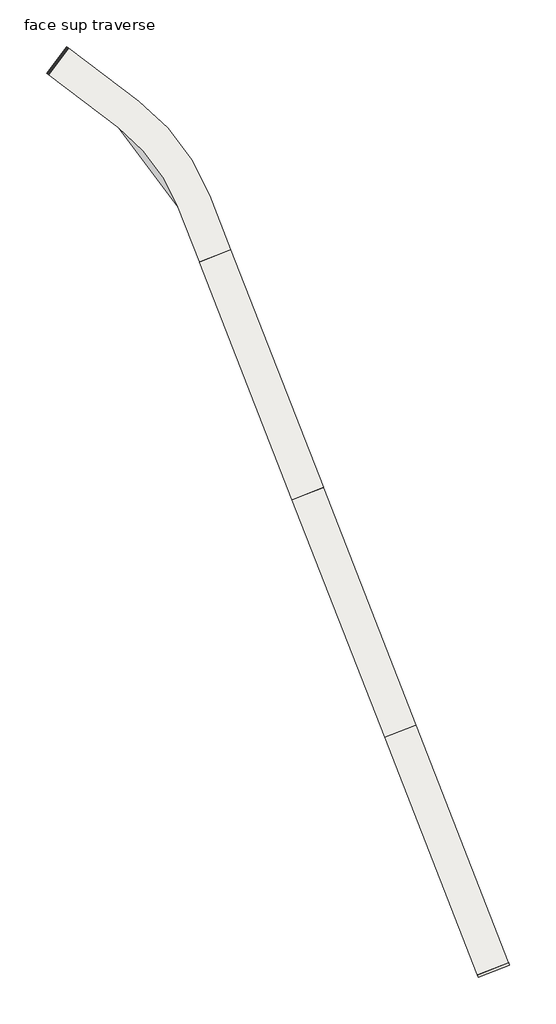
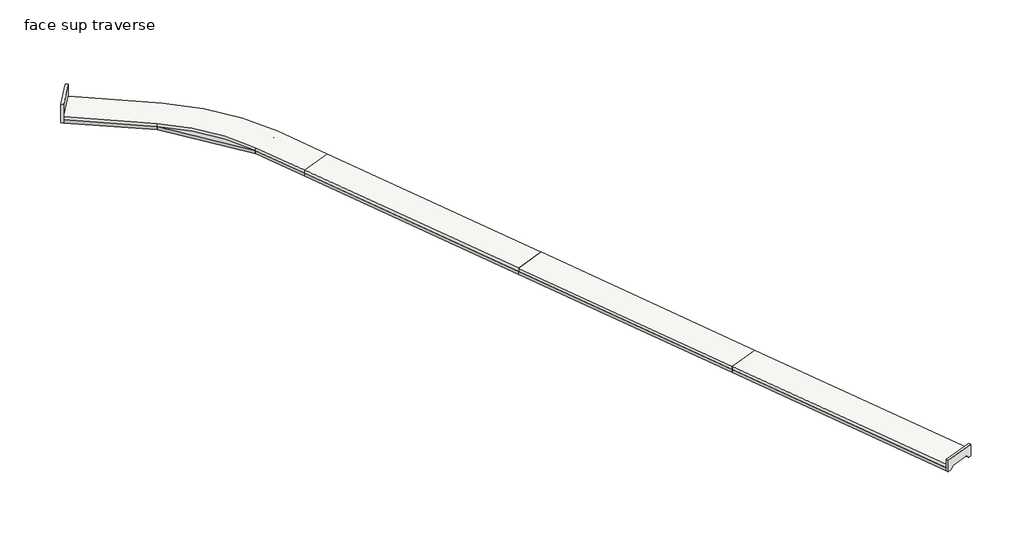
# One storey: 12 proxies, 4 slabs, 2 walls.
"""IFC4 building model written with IfcOpenShell, lengths in millimetres."""

import ifcopenshell
import ifcopenshell.guid

model = None  # the IFC model being written
_history = None  # IfcOwnerHistory: only IFC2X3 demands one
_inside = {}  # id of a spatial element -> (the spatial element, [elements in it])
_under = {}  # id of a project, library or spatial element -> (it, [spatial elements below it])
_declared = {}  # id of a project -> (the project, [libraries it declares])
_typed = {}  # id of a type object -> (the type object, [elements of that type])
_made_of = {}  # id of a material, layer set ... -> (it, [elements and type objects made of it])


def new_model(schema):
    """Start an empty IFC model of exactly this schema.

    Asked for "IFC4X3", IfcOpenShell would pick the latest addendum, in which some entities
    have other attributes; the version numbers below select the first issue.
    IFC2X3 requires an IfcOwnerHistory on every rooted entity: one is made here for all.
    """
    global model, _history
    if schema == "IFC4X3":
        model = ifcopenshell.file(schema_version=(4, 3, 0, 0))
    else:
        model = ifcopenshell.file(schema=schema)
    _inside.clear()
    _under.clear()
    _declared.clear()
    _typed.clear()
    _made_of.clear()
    _history = None
    if model.schema == "IFC2X3":
        org = make("IfcOrganization", Name="unknown")
        user = make(
            "IfcPersonAndOrganization",
            ThePerson=make("IfcPerson", FamilyName="unknown"),
            TheOrganization=org,
        )
        app = make(
            "IfcApplication",
            ApplicationDeveloper=org,
            Version="unknown",
            ApplicationFullName="unknown",
            ApplicationIdentifier="unknown",
        )
        _history = make(
            "IfcOwnerHistory",
            OwningUser=user,
            OwningApplication=app,
            ChangeAction="ADDED",
            CreationDate=0,
        )
    return model


def make(cls, **values):
    """One entity of the class cls with the attributes given. An attribute that is None is left unset."""
    return model.create_entity(
        cls, **{name: value for name, value in values.items() if value is not None}
    )


def rooted(cls, **values):
    """An entity with a GlobalId (a new one), such as an element, a storey or a relation."""
    return make(cls, GlobalId=ifcopenshell.guid.new(), OwnerHistory=_history, **values)


def si_unit(unit_type, name, prefix=None):
    """IfcSIUnit, for example si_unit("LENGTHUNIT", "METRE", prefix="MILLI")."""
    return make("IfcSIUnit", UnitType=unit_type, Prefix=prefix, Name=name)


def assignment(units):
    """IfcUnitAssignment: the units of a project."""
    return None if units is None else make("IfcUnitAssignment", Units=units)


def point(xyz):
    """IfcCartesianPoint."""
    return None if xyz is None else make("IfcCartesianPoint", Coordinates=xyz)


def direction(xyz):
    """IfcDirection."""
    return None if xyz is None else make("IfcDirection", DirectionRatios=xyz)


def frame(location, z_axis=None, x_axis=None):
    """IfcAxis2Placement3D, a coordinate frame: its origin and axes. An axis left out is left unset."""
    return make(
        "IfcAxis2Placement3D",
        Location=point(location),
        Axis=direction(z_axis),
        RefDirection=direction(x_axis),
    )


def frame_2d(location, x_axis=None):
    """IfcAxis2Placement2D, a coordinate frame in the plane: its origin and x axis."""
    return make(
        "IfcAxis2Placement2D", Location=point(location), RefDirection=direction(x_axis)
    )


def origin():
    """The frame at (0, 0, 0) with its axes left unset."""
    return frame((0.0, 0.0, 0.0))


def place(relative_to, where):
    """IfcLocalPlacement: puts the frame where relative to a parent placement (None: the world)."""
    return make(
        "IfcLocalPlacement", PlacementRelTo=relative_to, RelativePlacement=where
    )


def context(
    kind, dimensions, precision=None, world=None, true_north=None, identifier=None
):
    """IfcGeometricRepresentationContext, for example the 3D "Model" context."""
    return make(
        "IfcGeometricRepresentationContext",
        ContextIdentifier=identifier,
        ContextType=kind,
        CoordinateSpaceDimension=dimensions,
        Precision=precision,
        WorldCoordinateSystem=world,
        TrueNorth=true_north,
    )


def project(units=None, contexts=None):
    """IfcProject with its units and contexts."""
    return rooted(
        "IfcProject",
        Name="project",
        RepresentationContexts=contexts,
        UnitsInContext=assignment(units),
    )


def spatial(cls, under=None, at=None, **own):
    """A site, building, storey or space (cls), placed at a placement, below another one or the project."""
    s = rooted(cls, ObjectPlacement=at, **own)
    if under is not None:
        _under.setdefault(under.id(), (under, []))[1].append(s)
    return s


def polyline(points):
    """IfcPolyline through the points."""
    return make("IfcPolyline", Points=[point(p) for p in points])


def circle_curve(where, radius):
    """IfcCircle in the frame where."""
    return make("IfcCircle", Position=where, Radius=radius)


def trimmed(basis, trim1, trim2, sense, master):
    """IfcTrimmedCurve: the piece of a basis curve between two trims."""
    return make(
        "IfcTrimmedCurve",
        BasisCurve=basis,
        Trim1=trim1,
        Trim2=trim2,
        SenseAgreement=sense,
        MasterRepresentation=master,
    )


def segment(curve, same_sense, transition):
    """IfcCompositeCurveSegment."""
    return make(
        "IfcCompositeCurveSegment",
        Transition=transition,
        SameSense=same_sense,
        ParentCurve=curve,
    )


def composite_curve(segments, self_intersect=None):
    """IfcCompositeCurve: segments joined end to end."""
    return make("IfcCompositeCurve", Segments=segments, SelfIntersect=self_intersect)


def outline(outer, holes=None, kind="AREA"):
    """IfcArbitraryClosedProfileDef: a profile drawn as a closed curve; with holes, ...WithVoids."""
    if holes is None:
        return make("IfcArbitraryClosedProfileDef", ProfileType=kind, OuterCurve=outer)
    return make(
        "IfcArbitraryProfileDefWithVoids",
        ProfileType=kind,
        OuterCurve=outer,
        InnerCurves=holes,
    )


def extrude(swept, where, along, depth):
    """IfcExtrudedAreaSolid: the profile swept, set in the frame where, extruded along a direction by depth."""
    return make(
        "IfcExtrudedAreaSolid",
        SweptArea=swept,
        Position=where,
        ExtrudedDirection=direction(along),
        Depth=depth,
    )


def shape(context_of_items, identifier, shape_type, items):
    """IfcShapeRepresentation: the items that make up one representation, for example the "Body"."""
    return make(
        "IfcShapeRepresentation",
        ContextOfItems=context_of_items,
        RepresentationIdentifier=identifier,
        RepresentationType=shape_type,
        Items=items,
    )


def source(mapping_origin, context_of_items, identifier, shape_type, items):
    """IfcRepresentationMap: a shape defined once, which mapped items show again and again."""
    return make(
        "IfcRepresentationMap",
        MappingOrigin=mapping_origin,
        MappedRepresentation=shape(context_of_items, identifier, shape_type, items),
    )


def transform(
    local_origin,
    x_axis=None,
    y_axis=None,
    z_axis=None,
    scale=None,
    scale2=None,
    scale3=None,
    uniform=True,
):
    """IfcCartesianTransformationOperator3D, or its non-uniform kind. x_axis, y_axis, z_axis: its Axis1, 2, 3."""
    if uniform:
        return make(
            "IfcCartesianTransformationOperator3D",
            Axis1=direction(x_axis),
            Axis2=direction(y_axis),
            LocalOrigin=point(local_origin),
            Scale=scale,
            Axis3=direction(z_axis),
        )
    return make(
        "IfcCartesianTransformationOperator3DnonUniform",
        Axis1=direction(x_axis),
        Axis2=direction(y_axis),
        LocalOrigin=point(local_origin),
        Scale=scale,
        Axis3=direction(z_axis),
        Scale2=scale2,
        Scale3=scale3,
    )


def mapped(mapping_source, mapping_target):
    """IfcMappedItem: shows the shape of a source again, moved by a transform."""
    return make(
        "IfcMappedItem", MappingSource=mapping_source, MappingTarget=mapping_target
    )


def made_of(thing, what):
    """Note that an element or type object is made of a material, layer set ...; save() writes the relation."""
    if what is not None:
        _made_of.setdefault(what.id(), (what, []))[1].append(thing)
    return thing


def element(
    cls,
    number,
    at=None,
    inside=None,
    cuts=None,
    type_object=None,
    material=None,
    context=None,
    identifier="Body",
    shape_type=None,
    held_by="IfcProductDefinitionShape",
    body=None,
    shapes=None,
    **own,
):
    """One element of the class cls, such as IfcWall. Its Tag is "e" and its number.

    at: its placement. inside: the storey or other place that contains it. cuts: it is an
    opening in that element (IfcRelVoidsElement). A single representation is given by context,
    identifier, shape_type and body (its items); several are given by shapes. held_by: the class
    of the entity that holds the representations. save() writes the other relations.
    """
    e = rooted(cls, Tag="e%d" % number, ObjectPlacement=at, **own)
    if body is not None:
        shapes = [shape(context, identifier, shape_type, body)]
    if shapes is not None:
        e.Representation = make(held_by, Representations=shapes)
    if inside is not None:
        _inside.setdefault(inside.id(), (inside, []))[1].append(e)
    if cuts is not None:
        rooted(
            "IfcRelVoidsElement", RelatingBuildingElement=cuts, RelatedOpeningElement=e
        )
    if type_object is not None:
        _typed.setdefault(type_object.id(), (type_object, []))[1].append(e)
    return made_of(e, material)


def aggregate(whole, parts):
    """IfcRelAggregates: a whole, such as a stair, and the parts it consists of."""
    return rooted("IfcRelAggregates", RelatingObject=whole, RelatedObjects=parts)


def save(model, path):
    """Write the relations noted so far, then the file.

    IfcRelAggregates (storeys below a building ...), IfcRelContainedInSpatialStructure (elements
    in a storey), IfcRelDefinesByType, IfcRelAssociatesMaterial and IfcRelDeclares: one each for
    every whole, place, type object, material and project.
    """
    for whole, parts in _under.values():
        aggregate(whole, parts)
    for where, things in _inside.values():
        rooted(
            "IfcRelContainedInSpatialStructure",
            RelatedElements=things,
            RelatingStructure=where,
        )
    for kind, things in _typed.values():
        rooted("IfcRelDefinesByType", RelatedObjects=things, RelatingType=kind)
    for what, things in _made_of.values():
        rooted("IfcRelAssociatesMaterial", RelatedObjects=things, RelatingMaterial=what)
    for by, libraries in _declared.values():
        rooted("IfcRelDeclares", RelatingContext=by, RelatedDefinitions=libraries)
    model.write(path)


def plane_surface(at):
    """IfcPlane: the flat surface through the origin of the frame at, square to its z axis."""
    return make("IfcPlane", Position=at)


def cylinder_surface(at, radius):
    """IfcCylindricalSurface: all points at the distance radius from the z axis of the frame at."""
    return make("IfcCylindricalSurface", Position=at, Radius=radius)


def revolved_surface(curve, axis_point, axis_direction):
    """IfcSurfaceOfRevolution: the curve turned about the line through axis_point along axis_direction."""
    return make(
        "IfcSurfaceOfRevolution",
        SweptCurve=make("IfcArbitraryOpenProfileDef", ProfileType="CURVE", Curve=curve),
        AxisPosition=make("IfcAxis1Placement", Location=point(axis_point), Axis=direction(axis_direction)),
    )


def advanced_brep(points, edges, surfaces, faces):
    """IfcAdvancedBrep: a solid bounded by faces that lie on surfaces and meet in shared edges.

    An edge is (start, end): straight between two places in points (the first is 0);
    or (start, end, curve); or (start, end, curve, False) where it runs against its curve.
    A face is (place in surfaces, loops), or (place, loops, False) where it looks against
    its surface's normal. A loop lists edges by number (the first is 1), with a minus sign
    where the edge is run from its end to its start. The first loop is the outer one.
    """
    corners = [point(p) for p in points]
    vertices = [make("IfcVertexPoint", VertexGeometry=c) for c in corners]
    made = []
    for start, end, *more in edges:
        made.append(
            make(
                "IfcEdgeCurve",
                EdgeStart=vertices[start],
                EdgeEnd=vertices[end],
                EdgeGeometry=more[0] if more else make("IfcPolyline", Points=[corners[start], corners[end]]),
                SameSense=more[1] if len(more) > 1 else True,
            )
        )
    hull = []
    for where, loops, *sense in faces:
        bounds = []
        for j, loop in enumerate(loops):
            ring = [make("IfcOrientedEdge", EdgeElement=made[abs(k) - 1], Orientation=k > 0) for k in loop]
            bounds.append(
                make(
                    "IfcFaceOuterBound" if j == 0 else "IfcFaceBound",
                    Bound=make("IfcEdgeLoop", EdgeList=ring),
                    Orientation=True,
                )
            )
        hull.append(make("IfcAdvancedFace", Bounds=bounds, FaceSurface=surfaces[where], SameSense=sense[0] if sense else True))
    return make("IfcAdvancedBrep", Outer=make("IfcClosedShell", CfsFaces=hull))


def generic_models_11dc793a(model_context):
    return source(origin(), model_context, "Body", "AdvancedBrep", [
        advanced_brep(
        [(18325.0, 0.0, -350.0), (18325.0, 0.0, -700.0), (18675.0, 0.0, -700.0), (19025.0, 0.0, -350.0), (15634.3154742, 9558.9646225, -350.0), (15634.3154742, 9558.9646225, -700.0), (15932.924501, 9741.5369345, -700.0), (16231.5335278, 9924.1092466, -350.0)],
        [
            (0, 1),
            (1, 2),
            (2, 3),
            (3, 0),
            (0, 4, circle_curve(frame((0.0, 0.0, -350.0), z_axis=(0.0, 0.0, 1.0), x_axis=(1.0, 0.0, 0.0)), 18325.0)),
            (4, 5),
            (5, 1, circle_curve(frame((0.0, 0.0, -700.0), z_axis=(0.0, 0.0, -1.0), x_axis=(1.0, 0.0, 0.0)), 18325.0)),
            (5, 6),
            (6, 2, circle_curve(frame((0.0, 0.0, -700.0), z_axis=(0.0, 0.0, -1.0), x_axis=(1.0, 0.0, 0.0)), 18675.0)),
            (6, 7),
            (7, 3, circle_curve(frame((0.0, 0.0, -350.0), z_axis=(0.0, 0.0, -1.0), x_axis=(1.0, 0.0, 0.0)), 19025.0)),
            (7, 4),
        ],
        [
            plane_surface(frame((0.0, 0.0, 1500.0), z_axis=(0.0, -1.0, 0.0), x_axis=(1.0, 0.0, 0.0))),
            revolved_surface(polyline([(18325.0, 0.0, -350.0), (18325.0, 0.0, -700.0)]), (0.0, 0.0, 1500.0), (0.0, 0.0, 1.0)),
            plane_surface(frame((0.0, 0.0, -700.0), z_axis=(0.0, 0.0, -1.0), x_axis=(1.0, 0.0, 0.0))),
            revolved_surface(polyline([(18675.0, 0.0, -700.0), (19025.0, 0.0, -350.0)]), (0.0, 0.0, 1500.0), (0.0, 0.0, 1.0)),
            plane_surface(frame((0.0, 0.0, -350.0), z_axis=(0.0, 0.0, 1.0), x_axis=(1.0, 0.0, 0.0))),
            plane_surface(frame((0.0, 0.0, -350.0), z_axis=(-0.5216351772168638, 0.853168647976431, 0.0), x_axis=(0.0, 0.0, -1.0))),
        ],
        [
            (0, [[1, 2, 3, 4]]),
            (1, [[-1, 5, 6, 7]]),
            (2, [[-2, -7, 8, 9]]),
            (3, [[-3, -9, 10, 11]]),
            (4, [[-4, -11, 12, -5]]),
            (5, [[-6, -12, -10, -8]]),
        ],
    ),
    ])


def generic_models_7486e4d8(model_context):
    return source(origin(), model_context, "Body", "AdvancedBrep", [
        advanced_brep(
        [(21665.0, 0.0, -350.0), (20965.0, 0.0, -350.0), (21315.0, 0.0, -700.0), (21665.0, 0.0, -700.0), (18483.8987584, 11301.2261144, -700.0), (18483.8987584, 11301.2261144, -350.0), (18185.2897316, 11118.6538024, -700.0), (17886.6807048, 10936.0814904, -350.0)],
        [
            (0, 1),
            (1, 2),
            (2, 3),
            (3, 0),
            (3, 4, circle_curve(frame((0.0, 0.0, -700.0), z_axis=(0.0, 0.0, 1.0), x_axis=(1.0, 0.0, 0.0)), 21665.0)),
            (4, 5),
            (5, 0, circle_curve(frame((0.0, 0.0, -350.0), z_axis=(0.0, 0.0, -1.0), x_axis=(1.0, 0.0, 0.0)), 21665.0)),
            (2, 6, circle_curve(frame((0.0, 0.0, -700.0), z_axis=(0.0, 0.0, 1.0), x_axis=(1.0, 0.0, 0.0)), 21315.0)),
            (6, 4),
            (1, 7, circle_curve(frame((0.0, 0.0, -350.0), z_axis=(0.0, 0.0, 1.0), x_axis=(1.0, 0.0, 0.0)), 20965.0)),
            (7, 6),
            (5, 7),
        ],
        [
            plane_surface(frame((0.0, 0.0, 1500.0), z_axis=(0.0, -1.0, 0.0), x_axis=(1.0, 0.0, 0.0))),
            cylinder_surface(frame((0.0, 0.0, 1500.0), z_axis=(0.0, 0.0, 1.0), x_axis=(1.0, 0.0, 0.0)), 21665.0),
            plane_surface(frame((0.0, 0.0, -700.0), z_axis=(0.0, 0.0, -1.0), x_axis=(1.0, 0.0, 0.0))),
            revolved_surface(polyline([(20965.0, 0.0, -350.0), (21315.0, 0.0, -700.0)]), (0.0, 0.0, 1500.0), (0.0, 0.0, 1.0)),
            plane_surface(frame((0.0, 0.0, -350.0), z_axis=(0.0, 0.0, 1.0), x_axis=(1.0, 0.0, 0.0))),
            plane_surface(frame((0.0, 0.0, -350.0), z_axis=(-0.5216351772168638, 0.853168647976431, 0.0), x_axis=(0.0, 0.0, -1.0))),
        ],
        [
            (0, [[1, 2, 3, 4]]),
            (1, [[-4, 5, 6, 7]]),
            (2, [[-3, 8, 9, -5]]),
            (3, [[-2, 10, 11, -8]]),
            (4, [[-1, -7, 12, -10]]),
            (5, [[-6, -9, -11, -12]]),
        ],
    ),
    ])


def generic_models_39ab5bcd(model_context):
    return source(origin(), model_context, "Body", "SweptSolid", [
        extrude(outline(polyline([(0.0, -350.0), (0.0, -700.0), (-350.0, -700.0), (-700.0, -350.0), (0.0, -350.0)])), frame((0.0, 0.0, 0.0), z_axis=(1.0, 0.0, 0.0), x_axis=(0.0, 1.0, 0.0)), (0.0, 0.0, 1.0), 25500.0),
    ])


def generic_models_48085c64(model_context):
    return source(origin(), model_context, "Body", "SweptSolid", [
        extrude(outline(polyline([(0.0, -350.0), (700.0, -350.0), (350.0, -700.0), (0.0, -700.0), (0.0, -350.0)])), frame((0.0, 0.0, 0.0), z_axis=(1.0, 0.0, 0.0), x_axis=(0.0, 1.0, 0.0)), (0.0, 0.0, 1.0), 25500.0),
    ])


def generic_models_697e8544(model_context):
    return source(origin(), model_context, "Body", "SweptSolid", [
        extrude(outline(polyline([(0.0, -350.0), (0.0, -700.0), (-350.0, -700.0), (-700.0, -350.0), (0.0, -350.0)])), frame((0.0, 0.0, 0.0), z_axis=(1.0, 0.0, 0.0), x_axis=(0.0, 1.0, 0.0)), (0.0, 0.0, 1.0), 5872.9592015),
    ])


def generic_models_bdcf9df0(model_context):
    return source(origin(), model_context, "Body", "SweptSolid", [
        extrude(outline(polyline([(0.0, -350.0), (700.0, -350.0), (350.0, -700.0), (0.0, -700.0), (0.0, -350.0)])), frame((0.0, 0.0, 0.0), z_axis=(1.0, 0.0, 0.0), x_axis=(0.0, 1.0, 0.0)), (0.0, 0.0, 1.0), 5873.5479057),
    ])


def generic_models_537f49c0(model_context):
    return source(origin(), model_context, "Body", "SweptSolid", [
        extrude(outline(polyline([(0.0, -350.0), (0.0, -700.0), (-350.0, -700.0), (-700.0, -350.0), (0.0, -350.0)])), frame((0.0, 0.0, 0.0), z_axis=(1.0, 0.0, 0.0), x_axis=(0.0, 1.0, 0.0)), (0.0, 0.0, 1.0), 8785.0),
    ])


def generic_models_c98ec642(model_context):
    return source(origin(), model_context, "Body", "SweptSolid", [
        extrude(outline(polyline([(0.0, -350.0), (700.0, -350.0), (350.0, -700.0), (0.0, -700.0), (0.0, -350.0)])), frame((0.0, 0.0, 0.0), z_axis=(1.0, 0.0, 0.0), x_axis=(0.0, 1.0, 0.0)), (0.0, 0.0, 1.0), 8785.0),
    ])


model = new_model("IFC4")

# Units and contexts
model_context = context("Model", 3, world=origin())
ifc_project = project(units=[si_unit("LENGTHUNIT", "METRE", prefix="MILLI")], contexts=[model_context])

# Site, building, storey
site = spatial("IfcSite", under=ifc_project)
building = spatial("IfcBuilding", under=site)
storey = spatial("IfcBuildingStorey", under=building, Name="face sup traverse", Elevation=3350.0)

# Proxies
placement = place(None, origin())
generic_models_shape = generic_models_11dc793a(model_context)
element("IfcBuildingElementProxy", 1, Name="Gousset traverse courbe ext ou int : Gousset traverse courbe - côté intérieur", ObjectType="Gousset traverse courbe ext ou int : Gousset traverse courbe - côté intérieur", at=placement, inside=storey, context=model_context, shape_type="MappedRepresentation", body=[
    mapped(generic_models_shape, transform((199.3165241, -25275.899501, 3350.0), x_axis=(0.9317223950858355, 0.36317127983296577, 0.0), y_axis=(-0.36317127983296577, 0.9317223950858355, 0.0), z_axis=(0.0, 0.0, 1.0))),
])
generic_models_2_shape = generic_models_7486e4d8(model_context)
element("IfcBuildingElementProxy", 2, Name="Gousset traverse courbe ext ou int : Gousset traverse courbe - coté extérieur", ObjectType="Gousset traverse courbe ext ou int : Gousset traverse courbe - coté extérieur", at=placement, inside=storey, context=model_context, shape_type="MappedRepresentation", body=[
    mapped(generic_models_2_shape, transform((199.316329, -25275.8995192, 3350.0), x_axis=(0.9317075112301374, 0.3632094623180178, 0.0), y_axis=(-0.3632094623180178, 0.9317075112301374, 0.0), z_axis=(0.0, 0.0, 1.0))),
])
generic_models_3_shape = generic_models_39ab5bcd(model_context)
element("IfcBuildingElementProxy", 3, Name="Gousset traverse bord droit : Gousset traverse bord droit", ObjectType="Gousset traverse bord droit : Gousset traverse bord droit", at=placement, inside=storey, context=model_context, shape_type="MappedRepresentation", body=[
    mapped(generic_models_3_shape, transform((22537.7386278, -22896.7774592, 3350.0), x_axis=(0.363288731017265, -0.9316766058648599, 0.0), y_axis=(0.9316766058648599, 0.363288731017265, 0.0), z_axis=(0.0, 0.0, 1.0))),
])
element("IfcBuildingElementProxy", 4, Name="Gousset traverse bord droit : Gousset traverse bord droit", ObjectType="Gousset traverse bord droit : Gousset traverse bord droit", at=placement, inside=storey, context=model_context, shape_type="MappedRepresentation", body=[
    mapped(generic_models_3_shape, transform((31809.7166896, -46672.8331252, 3350.0), x_axis=(0.363288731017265, -0.9316766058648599, 0.0), y_axis=(0.9316766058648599, 0.363288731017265, 0.0), z_axis=(0.0, 0.0, 1.0))),
])
element("IfcBuildingElementProxy", 5, Name="Gousset traverse bord droit : Gousset traverse bord droit", ObjectType="Gousset traverse bord droit : Gousset traverse bord droit", at=placement, inside=storey, context=model_context, shape_type="MappedRepresentation", body=[
    mapped(generic_models_3_shape, transform((41081.6947513, -70448.8887913, 3350.0), x_axis=(0.363288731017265, -0.9316766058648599, 0.0), y_axis=(0.9316766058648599, 0.363288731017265, 0.0), z_axis=(0.0, 0.0, 1.0))),
])
generic_models_4_shape = generic_models_48085c64(model_context)
element("IfcBuildingElementProxy", 6, Name="Gousset traverse bord droit : Gousset traverse bord droit", ObjectType="Gousset traverse bord droit : Gousset traverse bord droit", at=placement, inside=storey, context=model_context, shape_type="MappedRepresentation", body=[
    mapped(generic_models_4_shape, transform((19414.9670882, -24114.5685686, 3350.0), x_axis=(0.3633553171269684, -0.9316506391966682, 0.0), y_axis=(0.9316506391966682, 0.3633553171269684, 0.0), z_axis=(0.0, 0.0, 1.0))),
])
element("IfcBuildingElementProxy", 7, Name="Gousset traverse bord droit : Gousset traverse bord droit", ObjectType="Gousset traverse bord droit : Gousset traverse bord droit", at=placement, inside=storey, context=model_context, shape_type="MappedRepresentation", body=[
    mapped(generic_models_4_shape, transform((28686.9451499, -47890.6242347, 3350.0), x_axis=(0.3633553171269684, -0.9316506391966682, 0.0), y_axis=(0.9316506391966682, 0.3633553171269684, 0.0), z_axis=(0.0, 0.0, 1.0))),
])
element("IfcBuildingElementProxy", 8, Name="Gousset traverse bord droit : Gousset traverse bord droit", ObjectType="Gousset traverse bord droit : Gousset traverse bord droit", at=placement, inside=storey, context=model_context, shape_type="MappedRepresentation", body=[
    mapped(generic_models_4_shape, transform((37958.9232117, -71666.6799007, 3350.0), x_axis=(0.3633553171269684, -0.9316506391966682, 0.0), y_axis=(0.9316506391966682, 0.3633553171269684, 0.0), z_axis=(0.0, 0.0, 1.0))),
])
generic_models_5_shape = generic_models_697e8544(model_context)
element("IfcBuildingElementProxy", 9, Name="Gousset traverse bord droit : Gousset traverse bord droit", ObjectType="Gousset traverse bord droit : Gousset traverse bord droit", at=placement, inside=storey, context=model_context, shape_type="MappedRepresentation", body=[
    mapped(generic_models_5_shape, transform((20397.6941603, -17406.4788956, 3350.0), x_axis=(0.3618006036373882, -0.9322555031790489, 0.0), y_axis=(0.9322555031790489, 0.3618006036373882, 0.0), z_axis=(0.0, 0.0, 1.0))),
])
generic_models_6_shape = generic_models_bdcf9df0(model_context)
element("IfcBuildingElementProxy", 10, Name="Gousset traverse bord droit : Gousset traverse bord droit", ObjectType="Gousset traverse bord droit : Gousset traverse bord droit", at=placement, inside=storey, context=model_context, shape_type="MappedRepresentation", body=[
    mapped(generic_models_6_shape, transform((17281.6908696, -18620.3956026, 3350.0), x_axis=(0.363322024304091, -0.9316636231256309, 0.0), y_axis=(0.9316636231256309, 0.363322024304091, 0.0), z_axis=(0.0, 0.0, 1.0))),
])
generic_models_7_shape = generic_models_537f49c0(model_context)
element("IfcBuildingElementProxy", 11, Name="Gousset traverse bord droit : Gousset traverse bord droit", ObjectType="Gousset traverse bord droit : Gousset traverse bord droit", at=placement, inside=storey, context=model_context, shape_type="MappedRepresentation", body=[
    mapped(generic_models_7_shape, transform((6328.9008819, -2708.8061228, 3350.0), x_axis=(0.7959685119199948, -0.6053380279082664, 0.0), y_axis=(0.6053380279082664, 0.7959685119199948, 0.0), z_axis=(0.0, 0.0, 1.0))),
])
generic_models_8_shape = generic_models_c98ec642(model_context)
element("IfcBuildingElementProxy", 12, Name="Gousset traverse bord droit : Gousset traverse bord droit", ObjectType="Gousset traverse bord droit : Gousset traverse bord droit", at=placement, inside=storey, context=model_context, shape_type="MappedRepresentation", body=[
    mapped(generic_models_8_shape, transform((4301.0184884, -5375.3006377, 3350.0), x_axis=(0.7959685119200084, -0.6053380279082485, 0.0), y_axis=(0.6053380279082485, 0.7959685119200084, 0.0), z_axis=(0.0, 0.0, 1.0))),
])

# Slabs
element("IfcSlab", 13, ObjectType="Dalle en béton - 350 mm", at=placement, inside=storey, context=model_context, shape_type="SweptSolid", body=[
    extrude(outline(polyline([(22537.7386278, -22896.7774592), (31802.4502481, -46654.1998502), (28679.6787084, -47871.9909596), (19414.9670882, -24114.5685686), (22537.7386278, -22896.7774592)])), frame((0.0, 0.0, 3000.0), z_axis=(0.0, 0.0, 1.0), x_axis=(1.0, 0.0, 0.0)), (0.0, 0.0, 1.0), 350.0),
])
element("IfcSlab", 14, ObjectType="Dalle en béton - 350 mm", at=placement, inside=storey, context=model_context, shape_type="SweptSolid", body=[
    extrude(outline(polyline([(31809.7166896, -46672.8331252), (41074.4283098, -70430.2555162), (37951.6567702, -71648.0466256), (28686.9451499, -47890.6242347), (31809.7166896, -46672.8331252)])), frame((0.0, 0.0, 3000.0), z_axis=(0.0, 0.0, 1.0), x_axis=(1.0, 0.0, 0.0)), (0.0, 0.0, 1.0), 350.0),
])
element("IfcSlab", 15, ObjectType="Dalle en béton - 350 mm", at=placement, inside=storey, context=model_context, shape_type="SweptSolid", body=[
    extrude(outline(composite_curve([segment(trimmed(circle_curve(frame_2d((191.4283658, -25288.637242)), 21687.3492446), [point((13321.0417842, -8027.2824649))], [point((20394.3224534, -17402.9421082))], False, "CARTESIAN"), True, "CONTINUOUS"), segment(polyline([(20394.3224534, -17402.9421082), (22530.3852007, -22877.9211277), (19407.6136611, -24095.7122372), (17272.3131366, -18620.1789911)]), True, "CONTINUOUS"), segment(trimmed(circle_curve(frame_2d((203.5197493, -25275.7189471)), 18320.4781544), [point((17272.3131366, -18620.1789911))], [point((11293.6018656, -10693.1952129))], True, "CARTESIAN"), True, "CONTINUOUS"), segment(polyline([(11293.6018656, -10693.1952129), (4301.0184884, -5375.3006377), (6328.9008819, -2708.8061228), (13321.0417842, -8027.2824649)]), True, "CONTINUOUS")], self_intersect=False)), frame((0.0, 0.0, 3000.0), z_axis=(0.0, 0.0, 1.0), x_axis=(1.0, 0.0, 0.0)), (0.0, 0.0, 1.0), 350.0),
])
element("IfcSlab", 16, ObjectType="Dalle en béton - 350 mm", at=placement, inside=storey, context=model_context, shape_type="SweptSolid", body=[
    extrude(outline(polyline([(41081.6947513, -70448.8887913), (50346.4063716, -94206.3111822), (47223.6348319, -95424.1022917), (37958.9232117, -71666.6799007), (41081.6947513, -70448.8887913)])), frame((0.0, 0.0, 3000.0), z_axis=(0.0, 0.0, 1.0), x_axis=(1.0, 0.0, 0.0)), (0.0, 0.0, 1.0), 350.0),
])

# Walls
element("IfcWall", 17, ObjectType="Voile BA 250 mm", at=placement, inside=storey, context=model_context, shape_type="SweptSolid", body=[
    extrude(outline(polyline([(0.0, 0.0), (350.0, 0.0), (700.0000001, -350.0), (2650.0, -350.0), (3000.0000001, 0.0), (3350.0, 0.0), (3350.0, -2060.0), (0.0, -2060.0), (0.0, 0.0)])), frame((4285.0991181, -5363.1938772, 2650.0), z_axis=(-0.7959685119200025, 0.6053380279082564, 0.0), x_axis=(0.6053380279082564, 0.7959685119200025, 0.0)), (0.0, 0.0, 1.0), 250.0),
])
element("IfcWall", 18, ObjectType="Voile BA 250 mm", at=placement, inside=storey, context=model_context, shape_type="SweptSolid", body=[
    extrude(outline(polyline([(0.0, 0.0), (350.0, 0.0), (700.0, -350.0), (2651.8229779, -350.0), (3001.822978, 0.0), (3351.822978, 0.0), (3351.822978, -1300.0), (0.0, -1300.0), (0.0, 0.0)])), frame((47321.7380936, -95675.6676639, 2650.0), z_axis=(-0.36332202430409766, 0.9316636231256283, 0.0), x_axis=(0.9316636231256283, 0.36332202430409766, 0.0)), (0.0, 0.0, 1.0), 250.0),
])

save(model, "model.ifc")
